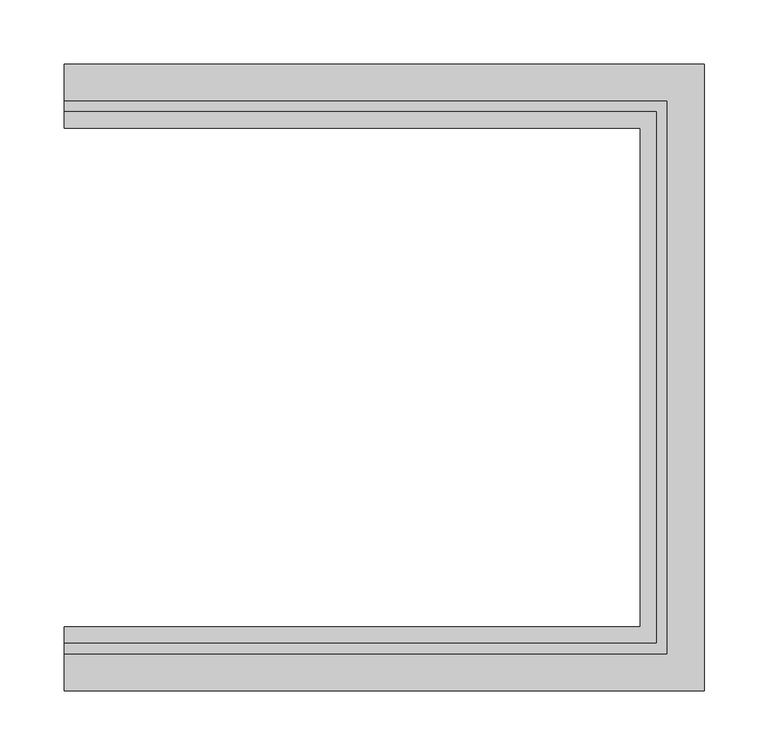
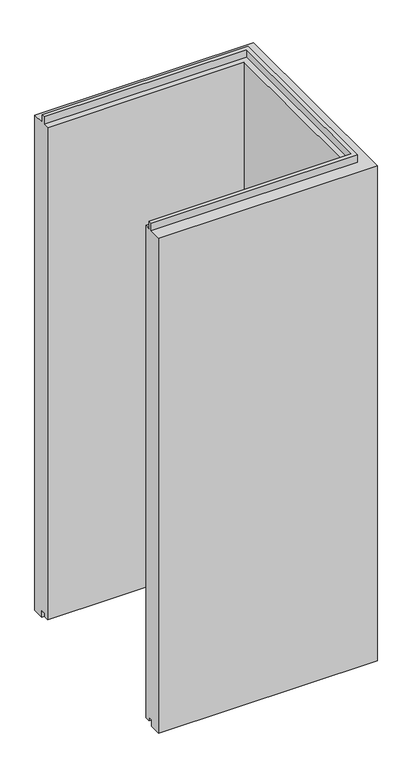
"""IFC4 building model written with IfcOpenShell, lengths in millimetres: plate geometry, Trimo_Qbiss Screen_U Corner Panel-HORIZONTAL : HR - FB."""

from ifc_helpers import new_model, si_unit, origin, place, context, project, spatial, faceted_brep, source, transform, mapped, element, save


def plate_5372a68f(model_context):
    return source(origin(), model_context, "Body", "Brep", [
        faceted_brep([(-171.25, 116.0, 1196.0), (-171.25, 145.0, 1196.0), (-171.25, 145.0, 0.0), (-171.25, 117.0, 0.0), (-171.25, 117.0, 15.5), (-171.25, 107.0, 15.5), (-171.25, 107.0, 7.0), (-171.25, 95.0, 7.0), (-171.25, 95.0, 1196.0), (-171.25, 108.0, 1196.0), (-171.25, 108.0, 1214.5), (-171.25, 116.0, 1214.5), (299.75, 116.0, 1196.0), (299.75, -316.0, 1196.0), (-171.25, -316.0, 1196.0), (-171.25, -345.0, 1196.0), (328.75, -345.0, 1196.0), (328.75, 145.0, 1196.0), (328.75, 145.0, 0.0), (328.75, -345.0, 0.0), (-171.25, -345.0, 0.0), (-171.25, -317.0, 0.0), (300.75, -317.0, 0.0), (300.75, 117.0, 0.0), (300.75, 117.0, 15.5), (300.75, -317.0, 15.5), (-171.25, -317.0, 15.5), (-171.25, -307.0, 15.5), (290.75, -307.0, 15.5), (290.75, 107.0, 15.5), (290.75, 107.0, 7.0), (290.75, -307.0, 7.0), (-171.25, -307.0, 7.0), (-171.25, -295.0, 7.0), (278.75, -295.0, 7.0), (278.75, 95.0, 7.0), (278.75, 95.0, 1196.0), (278.75, -295.0, 1196.0), (-171.25, -295.0, 1196.0), (-171.25, -308.0, 1196.0), (291.75, -308.0, 1196.0), (291.75, 108.0, 1196.0), (291.75, 108.0, 1214.5), (291.75, -308.0, 1214.5), (-171.25, -308.0, 1214.5), (-171.25, -316.0, 1214.5), (299.75, -316.0, 1214.5), (299.75, 116.0, 1214.5)], [[[0, 1, 2, 3, 4, 5, 6, 7, 8, 9, 10, 11]], [[1, 0, 12, 13, 14, 15, 16, 17]], [[2, 1, 17, 18]], [[3, 2, 18, 19, 20, 21, 22, 23]], [[4, 3, 23, 24]], [[5, 4, 24, 25, 26, 27, 28, 29]], [[6, 5, 29, 30]], [[7, 6, 30, 31, 32, 33, 34, 35]], [[8, 7, 35, 36]], [[9, 8, 36, 37, 38, 39, 40, 41]], [[10, 9, 41, 42]], [[11, 10, 42, 43, 44, 45, 46, 47]], [[0, 11, 47, 12]], [[14, 45, 44, 39, 38, 33, 32, 27, 26, 21, 20, 15]], [[18, 17, 16, 19]], [[24, 23, 22, 25]], [[30, 29, 28, 31]], [[36, 35, 34, 37]], [[42, 41, 40, 43]], [[12, 47, 46, 13]], [[19, 16, 15, 20]], [[25, 22, 21, 26]], [[31, 28, 27, 32]], [[37, 34, 33, 38]], [[43, 40, 39, 44]], [[13, 46, 45, 14]]]),
    ])


if __name__ == "__main__":
    model = new_model("IFC4")
    model_context = context("Model", 3, world=origin())
    ifc_project = project(units=[si_unit("LENGTHUNIT", "METRE", prefix="MILLI")], contexts=[model_context])
    site = spatial("IfcSite", under=ifc_project)
    building = spatial("IfcBuilding", under=site)
    placement = place(None, origin())
    plate_shape = plate_5372a68f(model_context)
    element("IfcPlate", 1, ObjectType="Trimo_Qbiss Screen_U Corner Panel-HORIZONTAL : HR - FB", at=placement, inside=building, context=model_context, shape_type="MappedRepresentation", body=[
        mapped(plate_shape, transform((0.0, 0.0, 0.0), x_axis=(1.0, 0.0, 0.0), y_axis=(0.0, 1.0, 0.0), z_axis=(0.0, 0.0, 1.0))),
    ])
    save(model, "model.ifc")
